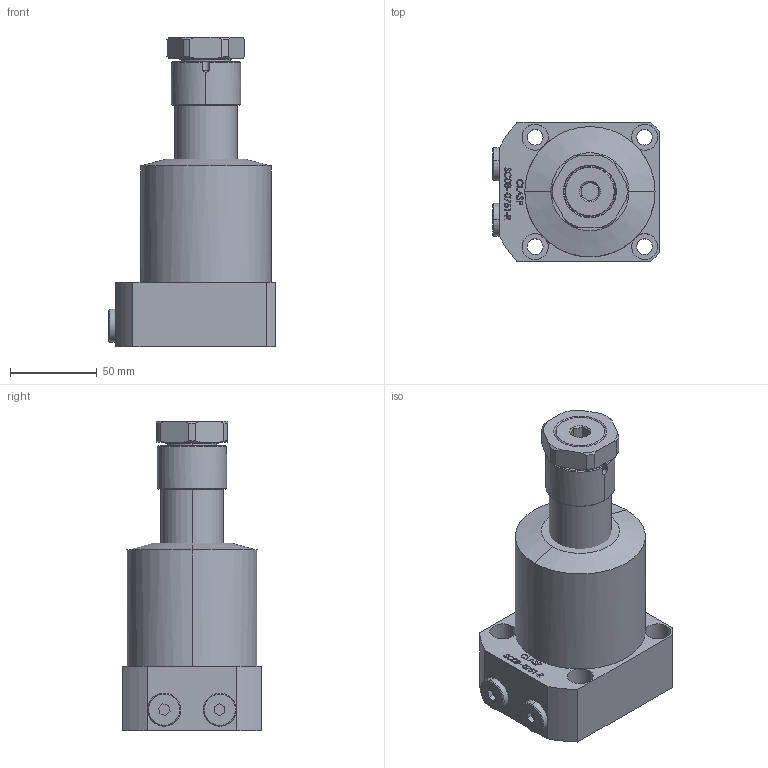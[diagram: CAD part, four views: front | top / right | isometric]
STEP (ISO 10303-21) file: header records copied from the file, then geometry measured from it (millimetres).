
FILE_DESCRIPTION (( 'STEP AP203' ), '1' );
FILE_NAME ('SC08-0751-R.STEP', '2022-07-08T17:20:22', ( '' ), ( '' ), 'SwSTEP 2.0', 'SolidWorks 2017', '' );
FILE_SCHEMA (( 'CONFIG_CONTROL_DESIGN' ));
Length unit declared in the file: millimetre
Products named in the file (6): SC-08-0751-R BODY; SC-08-0751-R-Piston; SC-08-0751-05 plug; SC-08-0751-04 sleeve; SC-08-0751-03-nut; SC08-0751-R
Assembly tree (6 placements, depth 2):
  SC08-0751-R
    SC-08-0751-R BODY
    SC-08-0751-R-Piston
    SC-08-0751-05 plug  x2
    SC-08-0751-04 sleeve
    SC-08-0751-03-nut
Bounding box: 96 x 80 x 178 mm (x, y, z)
Volume: 651063.9 mm3; surface area: 73781 mm2
Topology: 6 solids, 6 shells, 378 faces, 948 edges, 619 vertices
Faces by surface type: plane 171, bspline 102, cylinder 62, cone 41, sphere 2
Entity records: 17473 total; most frequent: CARTESIAN_POINT 8701, ORIENTED_EDGE 1828, DIRECTION 1383, EDGE_CURVE 914, VERTEX_POINT 598, LINE 483, VECTOR 483, AXIS2_PLACEMENT_3D 450
